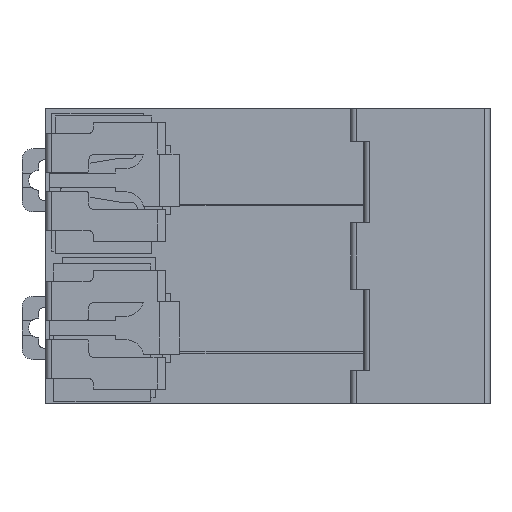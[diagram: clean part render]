
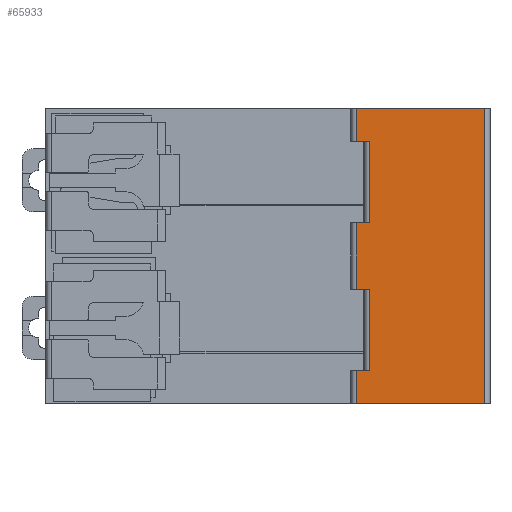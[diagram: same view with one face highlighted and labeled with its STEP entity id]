
A CAD part, front view. The second image highlights one B-rep face of the part: STEP entity #65933.
In plain terms, the highlighted planar face has unit normal (0, -1, 0).
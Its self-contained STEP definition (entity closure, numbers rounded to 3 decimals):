
#207=DIRECTION('',(0.,0.,1.));
#208=VECTOR('',#207,53.6);
#209=CARTESIAN_POINT('',(33.4,-58.5,-13.4));
#210=LINE('',#209,#208);
#215=DIRECTION('',(-1.,0.,0.));
#216=VECTOR('',#215,2.4);
#217=CARTESIAN_POINT('',(12.5,-58.5,34.2));
#218=LINE('',#217,#216);
#219=DIRECTION('',(1.,0.,0.));
#220=VECTOR('',#219,2.4);
#221=CARTESIAN_POINT('',(10.1,-58.5,-7.4));
#222=LINE('',#221,#220);
#223=DIRECTION('',(-1.,0.,0.));
#224=VECTOR('',#223,2.4);
#225=CARTESIAN_POINT('',(12.5,-58.5,7.4));
#226=LINE('',#225,#224);
#227=DIRECTION('',(1.,0.,0.));
#228=VECTOR('',#227,2.4);
#229=CARTESIAN_POINT('',(10.1,-58.5,19.4));
#230=LINE('',#229,#228);
#231=DIRECTION('',(0.,0.,-1.));
#232=VECTOR('',#231,14.8);
#233=CARTESIAN_POINT('',(12.5,-58.5,34.2));
#234=LINE('',#233,#232);
#3717=DIRECTION('',(1.,0.,0.));
#3718=VECTOR('',#3717,23.3);
#3719=CARTESIAN_POINT('',(10.1,-58.5,-13.4));
#3720=LINE('',#3719,#3718);
#7923=DIRECTION('',(-1.,0.,0.));
#7924=VECTOR('',#7923,23.3);
#7925=CARTESIAN_POINT('',(33.4,-58.5,40.2));
#7926=LINE('',#7925,#7924);
#7996=DIRECTION('',(0.,0.,-1.));
#7997=VECTOR('',#7996,6.);
#7998=CARTESIAN_POINT('',(10.1,-58.5,40.2));
#7999=LINE('',#7998,#7997);
#50843=DIRECTION('',(0.,0.,-1.));
#50844=VECTOR('',#50843,14.8);
#50845=CARTESIAN_POINT('',(12.5,-58.5,7.4));
#50846=LINE('',#50845,#50844);
#50883=DIRECTION('',(0.,0.,-1.));
#50884=VECTOR('',#50883,12.);
#50885=CARTESIAN_POINT('',(10.1,-58.5,19.4));
#50886=LINE('',#50885,#50884);
#50903=DIRECTION('',(0.,0.,-1.));
#50904=VECTOR('',#50903,6.);
#50905=CARTESIAN_POINT('',(10.1,-58.5,-7.4));
#50906=LINE('',#50905,#50904);
#51425=CARTESIAN_POINT('',(10.1,-58.5,-13.4));
#51426=VERTEX_POINT('',#51425);
#51427=CARTESIAN_POINT('',(33.4,-58.5,-13.4));
#51428=VERTEX_POINT('',#51427);
#52193=CARTESIAN_POINT('',(12.5,-58.5,-7.4));
#52194=VERTEX_POINT('',#52193);
#52195=CARTESIAN_POINT('',(10.1,-58.5,-7.4));
#52196=VERTEX_POINT('',#52195);
#56727=CARTESIAN_POINT('',(12.5,-58.5,7.4));
#56728=CARTESIAN_POINT('',(10.1,-58.5,7.4));
#56729=VERTEX_POINT('',#56727);
#56730=VERTEX_POINT('',#56728);
#57946=CARTESIAN_POINT('',(10.1,-58.5,19.4));
#57947=CARTESIAN_POINT('',(12.5,-58.5,19.4));
#57948=VERTEX_POINT('',#57946);
#57949=VERTEX_POINT('',#57947);
#60627=CARTESIAN_POINT('',(33.4,-58.5,40.2));
#60628=VERTEX_POINT('',#60627);
#60629=CARTESIAN_POINT('',(10.1,-58.5,40.2));
#60630=VERTEX_POINT('',#60629);
#61508=CARTESIAN_POINT('',(12.5,-58.5,34.2));
#61509=CARTESIAN_POINT('',(10.1,-58.5,34.2));
#61510=VERTEX_POINT('',#61508);
#61511=VERTEX_POINT('',#61509);
#65903=CARTESIAN_POINT('',(11.5,-58.5,0.));
#65904=DIRECTION('',(0.,-1.,0.));
#65905=DIRECTION('',(1.,0.,0.));
#65906=AXIS2_PLACEMENT_3D('',#65903,#65904,#65905);
#65907=PLANE('',#65906);
#65909=ORIENTED_EDGE('',*,*,#65908,.F.);
#65911=ORIENTED_EDGE('',*,*,#65910,.T.);
#65913=ORIENTED_EDGE('',*,*,#65912,.F.);
#65915=ORIENTED_EDGE('',*,*,#65914,.F.);
#65916=ORIENTED_EDGE('',*,*,#65893,.F.);
#65918=ORIENTED_EDGE('',*,*,#65917,.F.);
#65920=ORIENTED_EDGE('',*,*,#65919,.F.);
#65922=ORIENTED_EDGE('',*,*,#65921,.T.);
#65924=ORIENTED_EDGE('',*,*,#65923,.F.);
#65926=ORIENTED_EDGE('',*,*,#65925,.T.);
#65928=ORIENTED_EDGE('',*,*,#65927,.F.);
#65930=ORIENTED_EDGE('',*,*,#65929,.T.);
#65931=EDGE_LOOP('',(#65909,#65911,#65913,#65915,#65916,#65918,#65920,#65922,
#65924,#65926,#65928,#65930));
#65932=FACE_OUTER_BOUND('',#65931,.F.);
#65933=ADVANCED_FACE('',(#65932),#65907,.T.);
#65893=EDGE_CURVE('',#51428,#60628,#210,.T.);
#65908=EDGE_CURVE('',#61510,#57949,#234,.T.);
#65910=EDGE_CURVE('',#61510,#61511,#218,.T.);
#65912=EDGE_CURVE('',#60630,#61511,#7999,.T.);
#65914=EDGE_CURVE('',#60628,#60630,#7926,.T.);
#65917=EDGE_CURVE('',#51426,#51428,#3720,.T.);
#65919=EDGE_CURVE('',#52196,#51426,#50906,.T.);
#65921=EDGE_CURVE('',#52196,#52194,#222,.T.);
#65923=EDGE_CURVE('',#56729,#52194,#50846,.T.);
#65925=EDGE_CURVE('',#56729,#56730,#226,.T.);
#65927=EDGE_CURVE('',#57948,#56730,#50886,.T.);
#65929=EDGE_CURVE('',#57948,#57949,#230,.T.);
